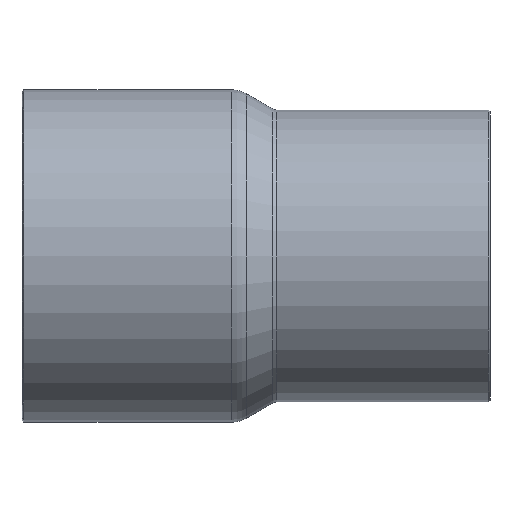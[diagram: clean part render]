
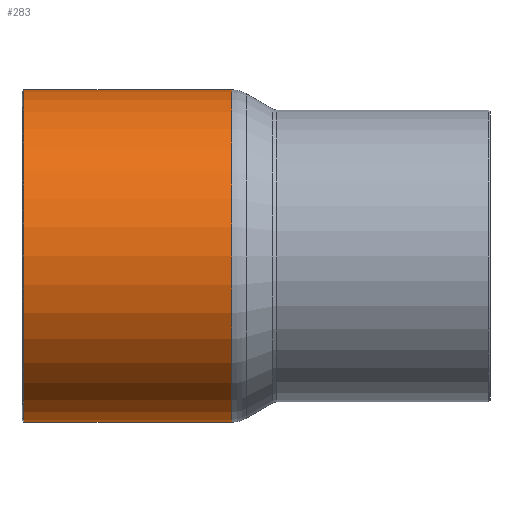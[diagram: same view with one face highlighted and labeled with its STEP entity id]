
A CAD part, front view. The second image highlights one B-rep face of the part: STEP entity #283.
In plain terms, the highlighted cylindrical face has radius 19.89 mm (diameter 39.78 mm), a full revolution.
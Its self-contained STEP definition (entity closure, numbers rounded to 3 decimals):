
#252=CARTESIAN_POINT('',(-30.295,19.89,0.));
#253=VERTEX_POINT('',#252);
#254=CARTESIAN_POINT('',(-30.295,0.0,0.0));
#255=DIRECTION('',(-1.0,0.0,0.0));
#256=DIRECTION('',(0.0,-1.0,0.0));
#257=AXIS2_PLACEMENT_3D('',#254,#255,#256);
#258=CIRCLE('',#257,19.89);
#259=EDGE_CURVE('',#253,#253,#258,.T.);
#264=CARTESIAN_POINT('',(-17.955,0.0,0.0));
#265=DIRECTION('',(1.0,0.0,0.0));
#266=DIRECTION('',(0.0,1.0,0.0));
#267=AXIS2_PLACEMENT_3D('',#264,#265,#266);
#268=CYLINDRICAL_SURFACE('',#267,19.89);
#269=CARTESIAN_POINT('',(-5.415,19.89,0.0));
#270=VERTEX_POINT('',#269);
#271=CARTESIAN_POINT('',(-5.415,0.0,0.0));
#272=DIRECTION('',(1.0,0.0,0.0));
#273=DIRECTION('',(0.0,1.0,0.0));
#274=AXIS2_PLACEMENT_3D('',#271,#272,#273);
#275=CIRCLE('',#274,19.89);
#276=EDGE_CURVE('',#270,#270,#275,.T.);
#277=ORIENTED_EDGE('',*,*,#276,.F.);
#278=EDGE_LOOP('',(#277));
#279=FACE_OUTER_BOUND('',#278,.T.);
#280=ORIENTED_EDGE('',*,*,#259,.F.);
#281=EDGE_LOOP('',(#280));
#282=FACE_BOUND('',#281,.T.);
#283=ADVANCED_FACE('',(#279,#282),#268,.T.);
